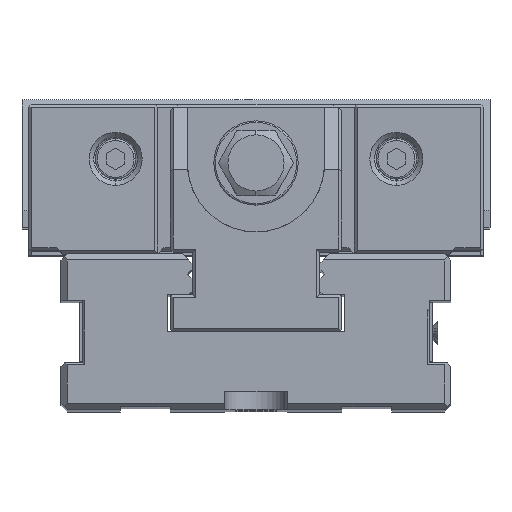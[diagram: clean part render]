
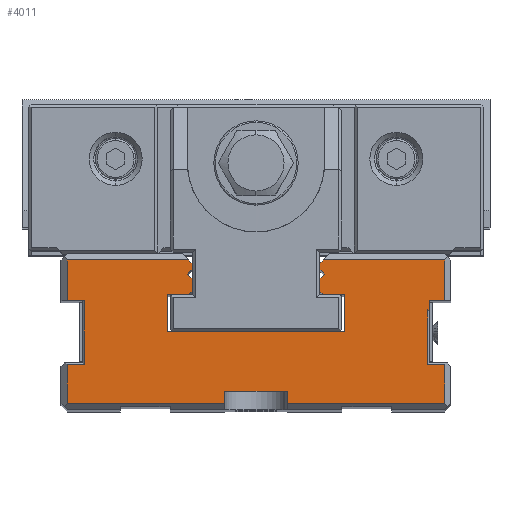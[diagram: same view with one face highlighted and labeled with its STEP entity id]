
A CAD part, top view. The second image highlights one B-rep face of the part: STEP entity #4011.
In plain terms, the highlighted planar face has unit normal (0, 0, 1).
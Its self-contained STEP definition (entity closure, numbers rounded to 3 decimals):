
#2=DIRECTION('',(-0.707,0.707,0.));
#3=VECTOR('',#2,1.414);
#4=CARTESIAN_POINT('',(21.5,37.,0.));
#5=LINE('',#4,#3);
#6=DIRECTION('',(0.707,0.707,0.));
#7=VECTOR('',#6,2.121);
#8=CARTESIAN_POINT('',(20.5,42.,0.));
#9=LINE('',#8,#7);
#10=DIRECTION('',(-0.707,0.707,0.));
#11=VECTOR('',#10,2.121);
#12=CARTESIAN_POINT('',(22.,43.5,0.));
#13=LINE('',#12,#11);
#14=DIRECTION('',(0.707,0.707,0.));
#15=VECTOR('',#14,1.414);
#16=CARTESIAN_POINT('',(20.5,47.,0.));
#17=LINE('',#16,#15);
#18=DIRECTION('',(1.,0.,0.));
#19=VECTOR('',#18,39.);
#20=CARTESIAN_POINT('',(21.5,48.,0.));
#21=LINE('',#20,#19);
#22=DIRECTION('',(0.,-1.,0.));
#23=VECTOR('',#22,13.);
#24=CARTESIAN_POINT('',(60.5,48.,0.));
#25=LINE('',#24,#23);
#26=DIRECTION('',(-1.,0.,0.));
#27=VECTOR('',#26,5.);
#28=CARTESIAN_POINT('',(60.5,35.,0.));
#29=LINE('',#28,#27);
#30=DIRECTION('',(0.,1.,0.));
#31=VECTOR('',#30,3.);
#32=CARTESIAN_POINT('',(55.5,32.,0.));
#33=LINE('',#32,#31);
#34=DIRECTION('',(-1.,0.,0.));
#35=VECTOR('',#34,0.5);
#36=CARTESIAN_POINT('',(55.5,32.,0.));
#37=LINE('',#36,#35);
#38=DIRECTION('',(0.,-1.,0.));
#39=VECTOR('',#38,17.5);
#40=CARTESIAN_POINT('',(55.,32.,0.));
#41=LINE('',#40,#39);
#42=DIRECTION('',(-1.,0.,0.));
#43=VECTOR('',#42,5.5);
#44=CARTESIAN_POINT('',(60.5,14.5,0.));
#45=LINE('',#44,#43);
#46=DIRECTION('',(0.,-1.,0.));
#47=VECTOR('',#46,12.5);
#48=CARTESIAN_POINT('',(60.5,14.5,0.));
#49=LINE('',#48,#47);
#50=DIRECTION('',(1.,0.,0.));
#51=VECTOR('',#50,20.);
#52=CARTESIAN_POINT('',(-10.,6.,0.));
#53=LINE('',#52,#51);
#54=DIRECTION('',(-1.,0.,0.));
#55=VECTOR('',#54,5.5);
#56=CARTESIAN_POINT('',(-55.,14.5,0.));
#57=LINE('',#56,#55);
#58=DIRECTION('',(0.,1.,0.));
#59=VECTOR('',#58,20.5);
#60=CARTESIAN_POINT('',(-55.,14.5,0.));
#61=LINE('',#60,#59);
#62=DIRECTION('',(1.,0.,0.));
#63=VECTOR('',#62,39.);
#64=CARTESIAN_POINT('',(-60.5,48.,0.));
#65=LINE('',#64,#63);
#66=DIRECTION('',(0.707,-0.707,0.));
#67=VECTOR('',#66,1.414);
#68=CARTESIAN_POINT('',(-21.5,48.,0.));
#69=LINE('',#68,#67);
#70=DIRECTION('',(-0.707,-0.707,0.));
#71=VECTOR('',#70,2.121);
#72=CARTESIAN_POINT('',(-20.5,45.,0.));
#73=LINE('',#72,#71);
#74=DIRECTION('',(0.707,-0.707,0.));
#75=VECTOR('',#74,2.121);
#76=CARTESIAN_POINT('',(-22.,43.5,0.));
#77=LINE('',#76,#75);
#78=DIRECTION('',(-0.707,-0.707,0.));
#79=VECTOR('',#78,1.414);
#80=CARTESIAN_POINT('',(-20.5,38.,0.));
#81=LINE('',#80,#79);
#200=DIRECTION('',(-1.,0.,0.));
#201=VECTOR('',#200,57.);
#202=CARTESIAN_POINT('',(28.5,25.,0.));
#203=LINE('',#202,#201);
#410=DIRECTION('',(1.,0.,0.));
#411=VECTOR('',#410,50.5);
#412=CARTESIAN_POINT('',(-60.5,2.,0.));
#413=LINE('',#412,#411);
#430=DIRECTION('',(1.,0.,0.));
#431=VECTOR('',#430,50.5);
#432=CARTESIAN_POINT('',(10.,2.,0.));
#433=LINE('',#432,#431);
#706=DIRECTION('',(1.,0.,0.));
#707=VECTOR('',#706,5.5);
#708=CARTESIAN_POINT('',(-60.5,35.,0.));
#709=LINE('',#708,#707);
#764=DIRECTION('',(0.,-1.,0.));
#765=VECTOR('',#764,12.5);
#766=CARTESIAN_POINT('',(-60.5,14.5,0.));
#767=LINE('',#766,#765);
#1058=DIRECTION('',(0.,-1.,0.));
#1059=VECTOR('',#1058,2.);
#1060=CARTESIAN_POINT('',(20.5,47.,0.));
#1061=LINE('',#1060,#1059);
#1086=DIRECTION('',(0.,-1.,0.));
#1087=VECTOR('',#1086,4.);
#1088=CARTESIAN_POINT('',(20.5,42.,0.));
#1089=LINE('',#1088,#1087);
#1102=DIRECTION('',(1.,0.,0.));
#1103=VECTOR('',#1102,7.);
#1104=CARTESIAN_POINT('',(21.5,37.,0.));
#1105=LINE('',#1104,#1103);
#1110=DIRECTION('',(0.,-1.,0.));
#1111=VECTOR('',#1110,12.);
#1112=CARTESIAN_POINT('',(28.5,37.,0.));
#1113=LINE('',#1112,#1111);
#1506=DIRECTION('',(1.,0.,0.));
#1507=VECTOR('',#1506,7.);
#1508=CARTESIAN_POINT('',(-28.5,37.,0.));
#1509=LINE('',#1508,#1507);
#1566=DIRECTION('',(0.,1.,0.));
#1567=VECTOR('',#1566,12.);
#1568=CARTESIAN_POINT('',(-28.5,25.,0.));
#1569=LINE('',#1568,#1567);
#1574=DIRECTION('',(0.,1.,0.));
#1575=VECTOR('',#1574,4.);
#1576=CARTESIAN_POINT('',(-20.5,38.,0.));
#1577=LINE('',#1576,#1575);
#1594=DIRECTION('',(0.,1.,0.));
#1595=VECTOR('',#1594,2.);
#1596=CARTESIAN_POINT('',(-20.5,45.,0.));
#1597=LINE('',#1596,#1595);
#1626=DIRECTION('',(0.,-1.,0.));
#1627=VECTOR('',#1626,13.);
#1628=CARTESIAN_POINT('',(-60.5,48.,0.));
#1629=LINE('',#1628,#1627);
#2256=DIRECTION('',(0.,-1.,0.));
#2257=VECTOR('',#2256,4.);
#2258=CARTESIAN_POINT('',(10.,6.,0.));
#2259=LINE('',#2258,#2257);
#2264=DIRECTION('',(0.,1.,0.));
#2265=VECTOR('',#2264,4.);
#2266=CARTESIAN_POINT('',(-10.,2.,0.));
#2267=LINE('',#2266,#2265);
#3052=CARTESIAN_POINT('',(21.5,48.,0.));
#3053=CARTESIAN_POINT('',(60.5,48.,0.));
#3054=VERTEX_POINT('',#3052);
#3055=VERTEX_POINT('',#3053);
#3056=CARTESIAN_POINT('',(-60.5,48.,0.));
#3057=CARTESIAN_POINT('',(-21.5,48.,0.));
#3058=VERTEX_POINT('',#3056);
#3059=VERTEX_POINT('',#3057);
#3060=CARTESIAN_POINT('',(-20.5,47.,0.));
#3061=VERTEX_POINT('',#3060);
#3062=CARTESIAN_POINT('',(-20.5,45.,0.));
#3063=VERTEX_POINT('',#3062);
#3064=CARTESIAN_POINT('',(-22.,43.5,0.));
#3065=VERTEX_POINT('',#3064);
#3066=CARTESIAN_POINT('',(-20.5,42.,0.));
#3067=VERTEX_POINT('',#3066);
#3068=CARTESIAN_POINT('',(-20.5,38.,0.));
#3069=VERTEX_POINT('',#3068);
#3070=CARTESIAN_POINT('',(-21.5,37.,0.));
#3071=VERTEX_POINT('',#3070);
#3072=CARTESIAN_POINT('',(-28.5,37.,0.));
#3073=VERTEX_POINT('',#3072);
#3074=CARTESIAN_POINT('',(-28.5,25.,0.));
#3075=VERTEX_POINT('',#3074);
#3076=CARTESIAN_POINT('',(28.5,37.,0.));
#3077=CARTESIAN_POINT('',(28.5,25.,0.));
#3078=VERTEX_POINT('',#3076);
#3079=VERTEX_POINT('',#3077);
#3080=CARTESIAN_POINT('',(21.5,37.,0.));
#3081=VERTEX_POINT('',#3080);
#3082=CARTESIAN_POINT('',(20.5,38.,0.));
#3083=VERTEX_POINT('',#3082);
#3084=CARTESIAN_POINT('',(20.5,42.,0.));
#3085=VERTEX_POINT('',#3084);
#3086=CARTESIAN_POINT('',(22.,43.5,0.));
#3087=VERTEX_POINT('',#3086);
#3088=CARTESIAN_POINT('',(20.5,45.,0.));
#3089=VERTEX_POINT('',#3088);
#3090=CARTESIAN_POINT('',(20.5,47.,0.));
#3091=VERTEX_POINT('',#3090);
#3191=CARTESIAN_POINT('',(-60.5,2.,0.));
#3193=VERTEX_POINT('',#3191);
#3197=CARTESIAN_POINT('',(60.5,2.,0.));
#3199=VERTEX_POINT('',#3197);
#3406=CARTESIAN_POINT('',(-10.,2.,0.));
#3407=VERTEX_POINT('',#3406);
#3408=CARTESIAN_POINT('',(10.,2.,0.));
#3409=VERTEX_POINT('',#3408);
#3530=CARTESIAN_POINT('',(-60.5,14.5,0.));
#3532=VERTEX_POINT('',#3530);
#3534=CARTESIAN_POINT('',(-55.,14.5,0.));
#3535=VERTEX_POINT('',#3534);
#3538=CARTESIAN_POINT('',(-55.,35.,0.));
#3539=VERTEX_POINT('',#3538);
#3557=CARTESIAN_POINT('',(60.5,14.5,0.));
#3559=VERTEX_POINT('',#3557);
#3560=CARTESIAN_POINT('',(55.,14.5,0.));
#3561=VERTEX_POINT('',#3560);
#3564=CARTESIAN_POINT('',(55.,32.,0.));
#3565=VERTEX_POINT('',#3564);
#3706=CARTESIAN_POINT('',(-60.5,35.,0.));
#3707=VERTEX_POINT('',#3706);
#3726=CARTESIAN_POINT('',(-10.,6.,0.));
#3727=CARTESIAN_POINT('',(10.,6.,0.));
#3728=VERTEX_POINT('',#3726);
#3729=VERTEX_POINT('',#3727);
#3734=CARTESIAN_POINT('',(60.5,35.,0.));
#3735=CARTESIAN_POINT('',(55.5,35.,0.));
#3736=VERTEX_POINT('',#3734);
#3737=VERTEX_POINT('',#3735);
#3738=CARTESIAN_POINT('',(55.5,32.,0.));
#3739=VERTEX_POINT('',#3738);
#3932=CARTESIAN_POINT('',(0.,0.,0.));
#3933=DIRECTION('',(0.,0.,-1.));
#3934=DIRECTION('',(-1.,0.,0.));
#3935=AXIS2_PLACEMENT_3D('',#3932,#3933,#3934);
#3936=PLANE('',#3935);
#3938=ORIENTED_EDGE('',*,*,#3937,.F.);
#3940=ORIENTED_EDGE('',*,*,#3939,.F.);
#3942=ORIENTED_EDGE('',*,*,#3941,.F.);
#3944=ORIENTED_EDGE('',*,*,#3943,.T.);
#3946=ORIENTED_EDGE('',*,*,#3945,.F.);
#3948=ORIENTED_EDGE('',*,*,#3947,.T.);
#3950=ORIENTED_EDGE('',*,*,#3949,.T.);
#3952=ORIENTED_EDGE('',*,*,#3951,.F.);
#3954=ORIENTED_EDGE('',*,*,#3953,.T.);
#3956=ORIENTED_EDGE('',*,*,#3955,.T.);
#3958=ORIENTED_EDGE('',*,*,#3957,.T.);
#3960=ORIENTED_EDGE('',*,*,#3959,.T.);
#3962=ORIENTED_EDGE('',*,*,#3961,.F.);
#3964=ORIENTED_EDGE('',*,*,#3963,.T.);
#3966=ORIENTED_EDGE('',*,*,#3965,.T.);
#3968=ORIENTED_EDGE('',*,*,#3967,.F.);
#3970=ORIENTED_EDGE('',*,*,#3969,.T.);
#3972=ORIENTED_EDGE('',*,*,#3971,.F.);
#3974=ORIENTED_EDGE('',*,*,#3973,.F.);
#3976=ORIENTED_EDGE('',*,*,#3975,.F.);
#3978=ORIENTED_EDGE('',*,*,#3977,.F.);
#3980=ORIENTED_EDGE('',*,*,#3979,.F.);
#3982=ORIENTED_EDGE('',*,*,#3981,.F.);
#3984=ORIENTED_EDGE('',*,*,#3983,.F.);
#3986=ORIENTED_EDGE('',*,*,#3985,.T.);
#3988=ORIENTED_EDGE('',*,*,#3987,.F.);
#3990=ORIENTED_EDGE('',*,*,#3989,.F.);
#3992=ORIENTED_EDGE('',*,*,#3991,.T.);
#3994=ORIENTED_EDGE('',*,*,#3993,.T.);
#3996=ORIENTED_EDGE('',*,*,#3995,.F.);
#3998=ORIENTED_EDGE('',*,*,#3997,.T.);
#4000=ORIENTED_EDGE('',*,*,#3999,.T.);
#4002=ORIENTED_EDGE('',*,*,#4001,.F.);
#4004=ORIENTED_EDGE('',*,*,#4003,.T.);
#4006=ORIENTED_EDGE('',*,*,#4005,.F.);
#4008=ORIENTED_EDGE('',*,*,#4007,.F.);
#4009=EDGE_LOOP('',(#3938,#3940,#3942,#3944,#3946,#3948,#3950,#3952,#3954,#3956,
#3958,#3960,#3962,#3964,#3966,#3968,#3970,#3972,#3974,#3976,#3978,#3980,#3982,
#3984,#3986,#3988,#3990,#3992,#3994,#3996,#3998,#4000,#4002,#4004,#4006,#4008));
#4010=FACE_OUTER_BOUND('',#4009,.F.);
#4011=ADVANCED_FACE('',(#4010),#3936,.F.);
#3937=EDGE_CURVE('',#3079,#3075,#203,.T.);
#3939=EDGE_CURVE('',#3078,#3079,#1113,.T.);
#3941=EDGE_CURVE('',#3081,#3078,#1105,.T.);
#3943=EDGE_CURVE('',#3081,#3083,#5,.T.);
#3945=EDGE_CURVE('',#3085,#3083,#1089,.T.);
#3947=EDGE_CURVE('',#3085,#3087,#9,.T.);
#3949=EDGE_CURVE('',#3087,#3089,#13,.T.);
#3951=EDGE_CURVE('',#3091,#3089,#1061,.T.);
#3953=EDGE_CURVE('',#3091,#3054,#17,.T.);
#3955=EDGE_CURVE('',#3054,#3055,#21,.T.);
#3957=EDGE_CURVE('',#3055,#3736,#25,.T.);
#3959=EDGE_CURVE('',#3736,#3737,#29,.T.);
#3961=EDGE_CURVE('',#3739,#3737,#33,.T.);
#3963=EDGE_CURVE('',#3739,#3565,#37,.T.);
#3965=EDGE_CURVE('',#3565,#3561,#41,.T.);
#3967=EDGE_CURVE('',#3559,#3561,#45,.T.);
#3969=EDGE_CURVE('',#3559,#3199,#49,.T.);
#3971=EDGE_CURVE('',#3409,#3199,#433,.T.);
#3973=EDGE_CURVE('',#3729,#3409,#2259,.T.);
#3975=EDGE_CURVE('',#3728,#3729,#53,.T.);
#3977=EDGE_CURVE('',#3407,#3728,#2267,.T.);
#3979=EDGE_CURVE('',#3193,#3407,#413,.T.);
#3981=EDGE_CURVE('',#3532,#3193,#767,.T.);
#3983=EDGE_CURVE('',#3535,#3532,#57,.T.);
#3985=EDGE_CURVE('',#3535,#3539,#61,.T.);
#3987=EDGE_CURVE('',#3707,#3539,#709,.T.);
#3989=EDGE_CURVE('',#3058,#3707,#1629,.T.);
#3991=EDGE_CURVE('',#3058,#3059,#65,.T.);
#3993=EDGE_CURVE('',#3059,#3061,#69,.T.);
#3995=EDGE_CURVE('',#3063,#3061,#1597,.T.);
#3997=EDGE_CURVE('',#3063,#3065,#73,.T.);
#3999=EDGE_CURVE('',#3065,#3067,#77,.T.);
#4001=EDGE_CURVE('',#3069,#3067,#1577,.T.);
#4003=EDGE_CURVE('',#3069,#3071,#81,.T.);
#4005=EDGE_CURVE('',#3073,#3071,#1509,.T.);
#4007=EDGE_CURVE('',#3075,#3073,#1569,.T.);
